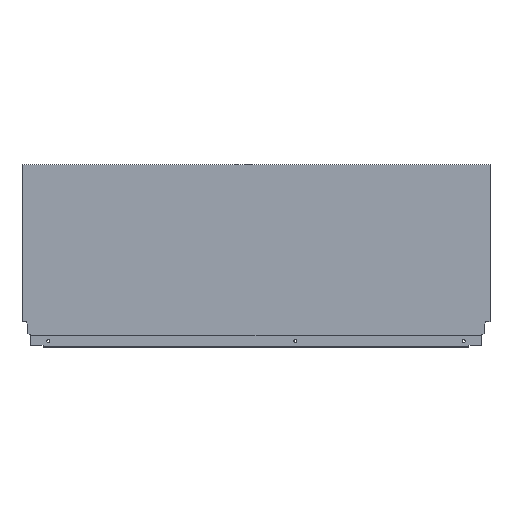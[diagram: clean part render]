
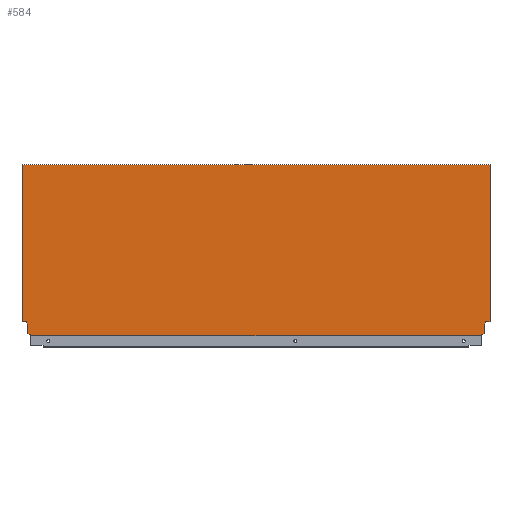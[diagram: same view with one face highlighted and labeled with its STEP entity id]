
A CAD part, top view. The second image highlights one B-rep face of the part: STEP entity #584.
In plain terms, the highlighted planar face has unit normal (0, 0, 1).
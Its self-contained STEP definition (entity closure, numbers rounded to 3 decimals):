
#45 = EDGE_CURVE ( 'NONE', #934, #938, #516, .T. ) ;
#46 = EDGE_CURVE ( 'NONE', #934, #919, #520, .T. ) ;
#47 = EDGE_CURVE ( 'NONE', #906, #958, #524, .T. ) ;
#49 = EDGE_CURVE ( 'NONE', #919, #928, #528, .T. ) ;
#50 = EDGE_CURVE ( 'NONE', #958, #899, #513, .T. ) ;
#51 = EDGE_CURVE ( 'NONE', #952, #899, #523, .T. ) ;
#52 = EDGE_CURVE ( 'NONE', #928, #906, #534, .T. ) ;
#53 = EDGE_CURVE ( 'NONE', #900, #901, #527, .T. ) ;
#54 = EDGE_CURVE ( 'NONE', #954, #938, #538, .T. ) ;
#55 = EDGE_CURVE ( 'NONE', #895, #900, #540, .T. ) ;
#56 = EDGE_CURVE ( 'NONE', #901, #954, #531, .T. ) ;
#57 = EDGE_CURVE ( 'NONE', #893, #895, #533, .T. ) ;
#58 = EDGE_CURVE ( 'NONE', #922, #893, #537, .T. ) ;
#59 = EDGE_CURVE ( 'NONE', #952, #922, #543, .T. ) ;
#184 = AXIS2_PLACEMENT_3D ( 'NONE', #1287, #1284, #1283 ) ;
#222 = ORIENTED_EDGE ( 'NONE', *, *, #54, .F. ) ;
#223 = ORIENTED_EDGE ( 'NONE', *, *, #45, .T. ) ;
#224 = ORIENTED_EDGE ( 'NONE', *, *, #53, .F. ) ;
#225 = ORIENTED_EDGE ( 'NONE', *, *, #46, .F. ) ;
#226 = ORIENTED_EDGE ( 'NONE', *, *, #49, .F. ) ;
#227 = ORIENTED_EDGE ( 'NONE', *, *, #52, .F. ) ;
#228 = ORIENTED_EDGE ( 'NONE', *, *, #56, .F. ) ;
#454 = EDGE_LOOP ( 'NONE', ( #1220, #1219, #1218, #227, #226, #225, #223, #222, #228, #224, #1232, #1233, #1234, #1238 ) ) ;
#513 = LINE ( 'NONE', #819, #530 ) ;
#516 = LINE ( 'NONE', #825, #518 ) ;
#518 = VECTOR ( 'NONE', #824, 1000. ) ;
#520 = LINE ( 'NONE', #830, #522 ) ;
#522 = VECTOR ( 'NONE', #822, 1000. ) ;
#523 = LINE ( 'NONE', #815, #532 ) ;
#524 = LINE ( 'NONE', #821, #525 ) ;
#525 = VECTOR ( 'NONE', #820, 1000. ) ;
#527 = LINE ( 'NONE', #813, #536 ) ;
#528 = LINE ( 'NONE', #817, #529 ) ;
#529 = VECTOR ( 'NONE', #816, 1000. ) ;
#530 = VECTOR ( 'NONE', #814, 1000. ) ;
#531 = LINE ( 'NONE', #809, #542 ) ;
#532 = VECTOR ( 'NONE', #812, 1000. ) ;
#533 = LINE ( 'NONE', #803, #544 ) ;
#534 = LINE ( 'NONE', #811, #535 ) ;
#535 = VECTOR ( 'NONE', #810, 1000. ) ;
#536 = VECTOR ( 'NONE', #808, 1000. ) ;
#537 = LINE ( 'NONE', #801, #546 ) ;
#538 = LINE ( 'NONE', #807, #539 ) ;
#539 = VECTOR ( 'NONE', #806, 1000. ) ;
#540 = LINE ( 'NONE', #805, #541 ) ;
#541 = VECTOR ( 'NONE', #804, 1000. ) ;
#542 = VECTOR ( 'NONE', #802, 1000. ) ;
#543 = LINE ( 'NONE', #799, #548 ) ;
#544 = VECTOR ( 'NONE', #800, 1000. ) ;
#546 = VECTOR ( 'NONE', #798, 1000. ) ;
#548 = VECTOR ( 'NONE', #796, 1000. ) ;
#584 = ADVANCED_FACE ( 'NONE', ( #1173 ), #1286, .T. ) ;
#796 = DIRECTION ( 'NONE',  ( 1., 0., 0. ) ) ;
#798 = DIRECTION ( 'NONE',  ( 0., -1., 0. ) ) ;
#799 = CARTESIAN_POINT ( 'NONE',  ( -713., 260.7, 8. ) ) ;
#800 = DIRECTION ( 'NONE',  ( -1., 0., 0. ) ) ;
#801 = CARTESIAN_POINT ( 'NONE',  ( 0., 0., 8. ) ) ;
#802 = DIRECTION ( 'NONE',  ( -0.94, -0.342, 0. ) ) ;
#803 = CARTESIAN_POINT ( 'NONE',  ( 0., 21.2, 8. ) ) ;
#804 = DIRECTION ( 'NONE',  ( -0.174, -0.985, 0. ) ) ;
#805 = CARTESIAN_POINT ( 'NONE',  ( -7.06, 21.2, 8. ) ) ;
#806 = DIRECTION ( 'NONE',  ( 0., -1., 0. ) ) ;
#807 = CARTESIAN_POINT ( 'NONE',  ( -13.004, 1.146, 8. ) ) ;
#808 = DIRECTION ( 'NONE',  ( 0., -1., 0. ) ) ;
#809 = CARTESIAN_POINT ( 'NONE',  ( -8.9, 2.64, 8. ) ) ;
#810 = DIRECTION ( 'NONE',  ( 0., 1., 0. ) ) ;
#811 = CARTESIAN_POINT ( 'NONE',  ( -704.1, 10.765, 8. ) ) ;
#812 = DIRECTION ( 'NONE',  ( 0., -1., 0. ) ) ;
#813 = CARTESIAN_POINT ( 'NONE',  ( -8.9, 10.765, 8. ) ) ;
#814 = DIRECTION ( 'NONE',  ( -1., 0., 0. ) ) ;
#815 = CARTESIAN_POINT ( 'NONE',  ( -713., 0., 8. ) ) ;
#816 = DIRECTION ( 'NONE',  ( -0.94, 0.342, 0. ) ) ;
#817 = CARTESIAN_POINT ( 'NONE',  ( -704.1, 2.64, 8. ) ) ;
#819 = CARTESIAN_POINT ( 'NONE',  ( -718., 21.2, 8. ) ) ;
#820 = DIRECTION ( 'NONE',  ( -0.174, 0.985, 0. ) ) ;
#821 = CARTESIAN_POINT ( 'NONE',  ( -705.94, 21.2, 8. ) ) ;
#822 = DIRECTION ( 'NONE',  ( 0., 1., 0. ) ) ;
#824 = DIRECTION ( 'NONE',  ( 1., 0., 0. ) ) ;
#825 = CARTESIAN_POINT ( 'NONE',  ( -713., 0., 8. ) ) ;
#830 = CARTESIAN_POINT ( 'NONE',  ( -699.996, 1.146, 8. ) ) ;
#893 = VERTEX_POINT ( 'NONE', #1412 ) ;
#895 = VERTEX_POINT ( 'NONE', #1410 ) ;
#899 = VERTEX_POINT ( 'NONE', #1406 ) ;
#900 = VERTEX_POINT ( 'NONE', #1405 ) ;
#901 = VERTEX_POINT ( 'NONE', #1404 ) ;
#906 = VERTEX_POINT ( 'NONE', #1399 ) ;
#919 = VERTEX_POINT ( 'NONE', #1386 ) ;
#922 = VERTEX_POINT ( 'NONE', #1383 ) ;
#928 = VERTEX_POINT ( 'NONE', #1376 ) ;
#934 = VERTEX_POINT ( 'NONE', #1370 ) ;
#938 = VERTEX_POINT ( 'NONE', #1366 ) ;
#952 = VERTEX_POINT ( 'NONE', #1350 ) ;
#954 = VERTEX_POINT ( 'NONE', #1348 ) ;
#958 = VERTEX_POINT ( 'NONE', #1343 ) ;
#1173 = FACE_OUTER_BOUND ( 'NONE', #454, .T. ) ;
#1218 = ORIENTED_EDGE ( 'NONE', *, *, #47, .F. ) ;
#1219 = ORIENTED_EDGE ( 'NONE', *, *, #50, .F. ) ;
#1220 = ORIENTED_EDGE ( 'NONE', *, *, #51, .T. ) ;
#1232 = ORIENTED_EDGE ( 'NONE', *, *, #55, .F. ) ;
#1233 = ORIENTED_EDGE ( 'NONE', *, *, #57, .F. ) ;
#1234 = ORIENTED_EDGE ( 'NONE', *, *, #58, .F. ) ;
#1238 = ORIENTED_EDGE ( 'NONE', *, *, #59, .F. ) ;
#1283 = DIRECTION ( 'NONE',  ( 1., 0., 0. ) ) ;
#1284 = DIRECTION ( 'NONE',  ( 0., 0., 1. ) ) ;
#1286 = PLANE ( 'NONE',  #184 ) ;
#1287 = CARTESIAN_POINT ( 'NONE',  ( -713., 0., 8. ) ) ;
#1343 = CARTESIAN_POINT ( 'NONE',  ( -705.94, 21.2, 8. ) ) ;
#1348 = CARTESIAN_POINT ( 'NONE',  ( -13.004, 1.146, 8. ) ) ;
#1350 = CARTESIAN_POINT ( 'NONE',  ( -713., 260.7, 8. ) ) ;
#1366 = CARTESIAN_POINT ( 'NONE',  ( -13.004, 0., 8. ) ) ;
#1370 = CARTESIAN_POINT ( 'NONE',  ( -699.996, 0., 8. ) ) ;
#1376 = CARTESIAN_POINT ( 'NONE',  ( -704.1, 2.64, 8. ) ) ;
#1383 = CARTESIAN_POINT ( 'NONE',  ( 0., 260.7, 8. ) ) ;
#1386 = CARTESIAN_POINT ( 'NONE',  ( -699.996, 1.146, 8. ) ) ;
#1399 = CARTESIAN_POINT ( 'NONE',  ( -704.1, 10.765, 8. ) ) ;
#1404 = CARTESIAN_POINT ( 'NONE',  ( -8.9, 2.64, 8. ) ) ;
#1405 = CARTESIAN_POINT ( 'NONE',  ( -8.9, 10.765, 8. ) ) ;
#1406 = CARTESIAN_POINT ( 'NONE',  ( -713., 21.2, 8. ) ) ;
#1410 = CARTESIAN_POINT ( 'NONE',  ( -7.06, 21.2, 8. ) ) ;
#1412 = CARTESIAN_POINT ( 'NONE',  ( 0., 21.2, 8. ) ) ;
